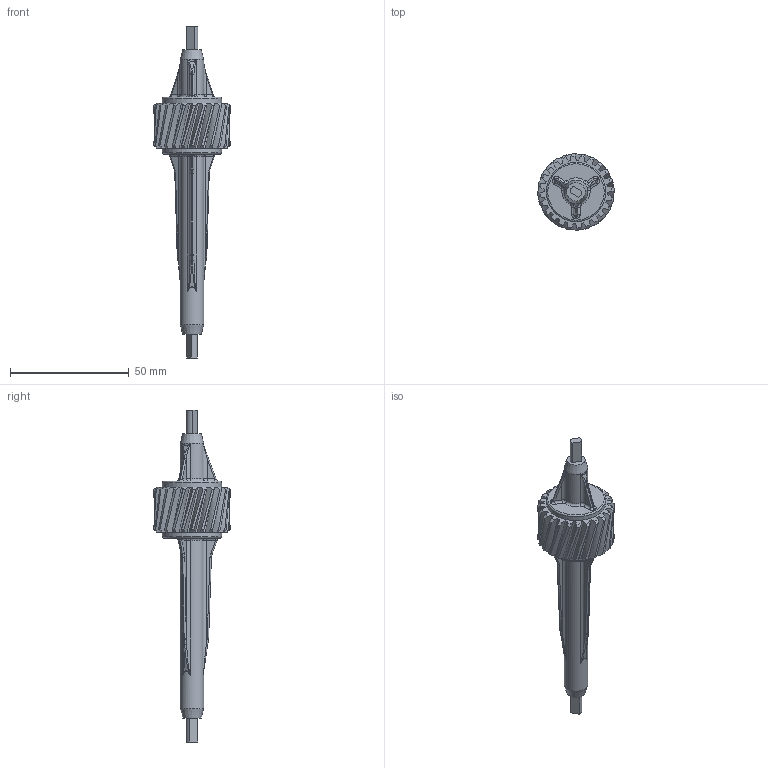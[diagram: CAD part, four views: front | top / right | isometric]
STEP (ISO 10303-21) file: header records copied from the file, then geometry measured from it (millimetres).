
FILE_DESCRIPTION(('STEP AP242'), '1');
FILE_NAME('Îñü êîë¸ñ', '', ('UNSPECIFIED'), ('UNSPECIFIED'), 'C3D Converter', 'C3D Toolkit', '');
FILE_SCHEMA(('AP242_MANAGED_MODEL_BASED_3D_ENGINEERING_MIM_LF { 1 0 10303 442 1 1 4 }'));
Length unit declared in the file: millimetre
Products named in the file (1): Ось колёс
Bounding box: 32.21 x 32.21 x 140 mm (x, y, z)
Volume: 24108.4 mm3; surface area: 9224.2 mm2
Topology: 1 solids, 1 shells, 306 faces, 808 edges, 510 vertices
Faces by surface type: bspline 108, cylinder 92, cone 50, plane 36, torus 20
Full cylindrical faces by diameter (mm): 9.9 x2, 25 x2
Entity records: 17575 total; most frequent: CARTESIAN_POINT 9943, ORIENTED_EDGE 1600, DIRECTION 936, EDGE_CURVE 800, VERTEX_POINT 510, B_SPLINE_CURVE_WITH_KNOTS 461, AXIS2_PLACEMENT_3D 400, EDGE_LOOP 320
